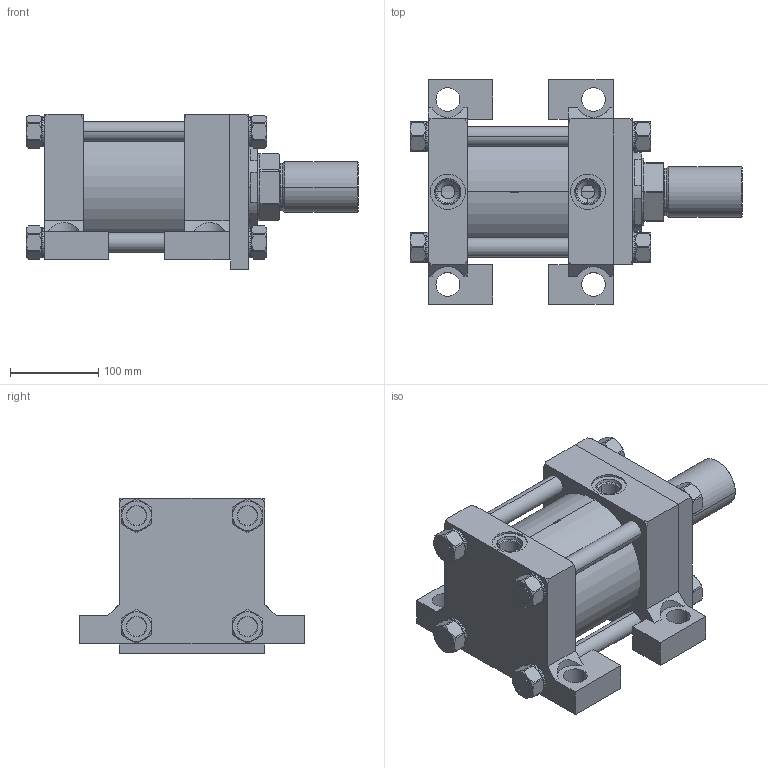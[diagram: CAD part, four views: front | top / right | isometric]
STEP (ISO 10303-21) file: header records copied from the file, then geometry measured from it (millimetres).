
FILE_DESCRIPTION (( 'STEP AP214' ), '1' );
FILE_NAME ('5.00CP2HHNAT144A2.000.step', '2026-03-26T21:15:49', ( '' ), ( '' ), 'SwSTEP 2.0', 'SolidWorks 2023', '' );
FILE_SCHEMA (( 'AUTOMOTIVE_DESIGN' ));
Length unit declared in the file: inch
Products named in the file (1): 5.00CP2HHNAT144A2.000
Bounding box: 376.24 x 254 x 176.21 mm (x, y, z)
Volume: 5576818.8 mm3; surface area: 738257.1 mm2
Topology: 44 solids, 44 shells, 1221 faces, 3151 edges, 2026 vertices
Faces by surface type: plane 801, cylinder 221, cone 161, bspline 30, torus 8
Entity records: 55310 total; most frequent: CARTESIAN_POINT 11035, ORIENTED_EDGE 6302, DIRECTION 5183, EDGE_CURVE 3151, VERTEX_POINT 2026, AXIS2_PLACEMENT_3D 1756, VECTOR 1671, LINE 1671
